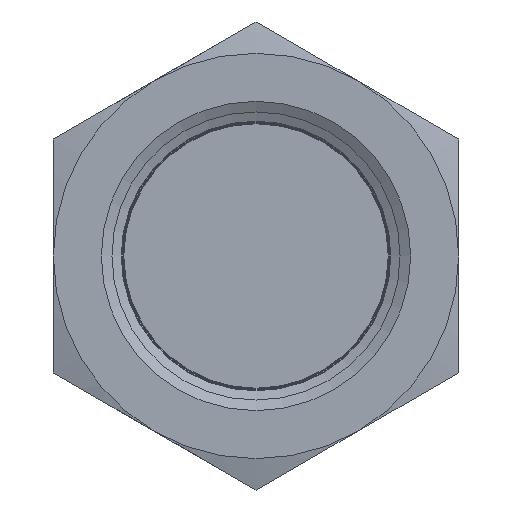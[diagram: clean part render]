
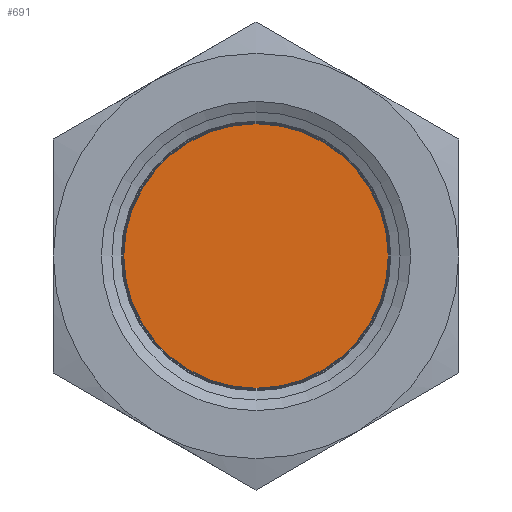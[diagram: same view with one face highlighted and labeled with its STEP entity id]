
A CAD part, left-side view. The second image highlights one B-rep face of the part: STEP entity #691.
In plain terms, the highlighted planar face has unit normal (-1, 0, 0).
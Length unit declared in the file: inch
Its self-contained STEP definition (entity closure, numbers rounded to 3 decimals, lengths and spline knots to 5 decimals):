
#691 = ADVANCED_FACE( '', ( #1534 ), #1535, .T. );
#1534 = FACE_OUTER_BOUND( '', #3959, .T. );
#1535 = PLANE( '', #3960 );
#3959 = EDGE_LOOP( '', ( #5868 ) );
#3960 = AXIS2_PLACEMENT_3D( '', #5869, #5870, #5871 );
#5868 = ORIENTED_EDGE( '', *, *, #6839, .T. );
#5869 = CARTESIAN_POINT( '', ( 0.48696, 0., 0.56054 ) );
#5870 = DIRECTION( '', ( -1., 0., 0. ) );
#5871 = DIRECTION( '', ( 0., 0., 1. ) );
#6839 = EDGE_CURVE( '', #7800, #7800, #7801, .T. );
#7800 = VERTEX_POINT( '', #9339 );
#7801 = CIRCLE( '', #9340, 0.63024 );
#9339 = CARTESIAN_POINT( '', ( 0.48696, 0., 0.63024 ) );
#9340 = AXIS2_PLACEMENT_3D( '', #12382, #12383, #12384 );
#12382 = CARTESIAN_POINT( '', ( 0.48696, 0., 0. ) );
#12383 = DIRECTION( '', ( -1., 0., 0. ) );
#12384 = DIRECTION( '', ( 0., 0., 1. ) );
